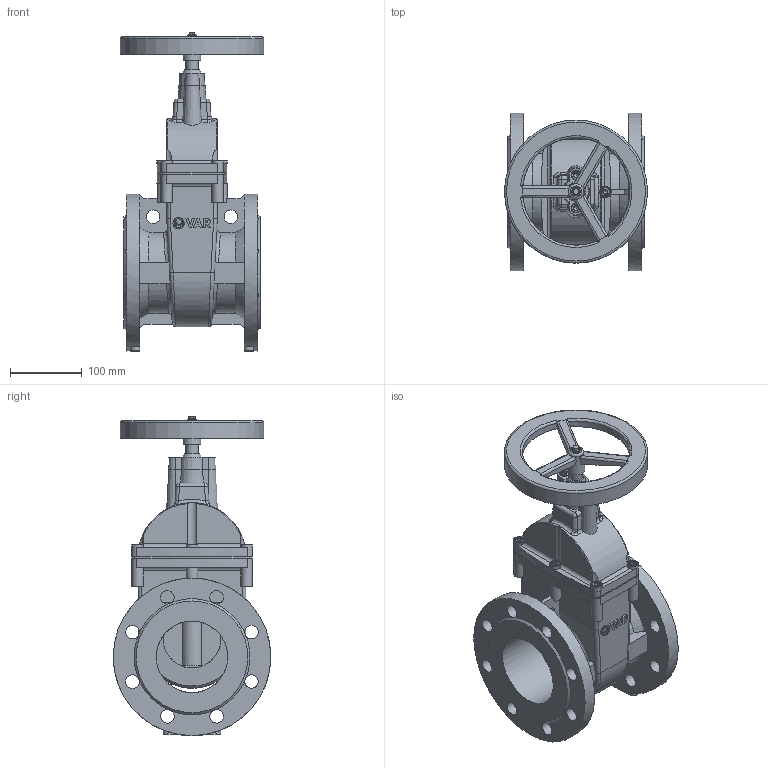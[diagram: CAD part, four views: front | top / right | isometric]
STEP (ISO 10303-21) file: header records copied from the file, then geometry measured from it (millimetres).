
FILE_DESCRIPTION(('STEP AP242'), '1');
FILE_NAME('青溻桄赅', '', ('UNSPECIFIED'), ('UNSPECIFIED'), 'C3D Converter', 'C3D Toolkit', '');
FILE_SCHEMA(('AP242_MANAGED_MODEL_BASED_3D_ENGINEERING_MIM_LF { 1 0 10303 442 1 1 4 }'));
Length unit declared in the file: millimetre
Assembly tree (17 placements, depth 2):
  (unnamed)
    (unnamed)
    (unnamed)
    (unnamed)
    (unnamed)
    (unnamed)  x2
    (unnamed)
    (unnamed)
    (unnamed)  x6
    (unnamed)  x2
    (unnamed)
Bounding box: 200 x 220 x 445.8 mm (x, y, z)
Volume: 3187412.2 mm3; surface area: 718762.1 mm2
Topology: 20 solids, 20 shells, 946 faces, 2413 edges, 1539 vertices
Faces by surface type: plane 467, cylinder 196, extrusion 123, bspline 70, cone 69, torus 21
Full cylindrical faces by diameter (mm): 5 x3, 6 x8, 8 x30, 13 x8, 13.6 x8, 15.757 x1, 17 x7, 18.862 x2, 19 x16, 29.667 x3, 81 x2, 100 x4, 130.4 x4, 138 x1, 150 x1, 160 x1, 190 x1, 200 x1, 220 x2
Entity records: 42987 total; most frequent: CARTESIAN_POINT 21817, ORIENTED_EDGE 3940, DIRECTION 3114, EDGE_CURVE 1970, VERTEX_POINT 1345, AXIS2_PLACEMENT_3D 1049, EDGE_LOOP 1045, VECTOR 1016
